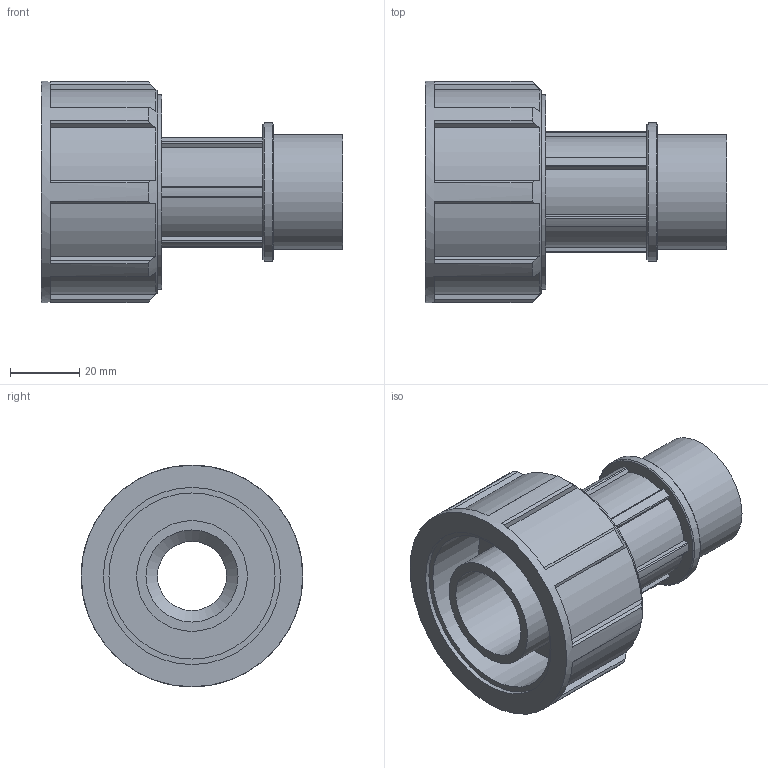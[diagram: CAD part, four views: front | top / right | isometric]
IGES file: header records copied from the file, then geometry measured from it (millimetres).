
Global section: file name: 072500032010_182500032010_0725060320100A.ipt; native system: Autodesk Inventor 2015; preprocessor: unknown; author: KIM; date: 20170608.042142; units: millimetre
Bounding box: 87 x 64 x 64 mm (x, y, z)
Volume: 78341.1 mm3; surface area: 34163.4 mm2
Topology: 1 solids, 1 shells, 108 faces, 300 edges, 202 vertices
Faces by surface type: plane 74, cylinder 25, revolution 6, cone 3
Full cylindrical faces by diameter (mm): 32 x1, 33.249 x1, 39.899 x1, 56.32 x1, 64 x1
